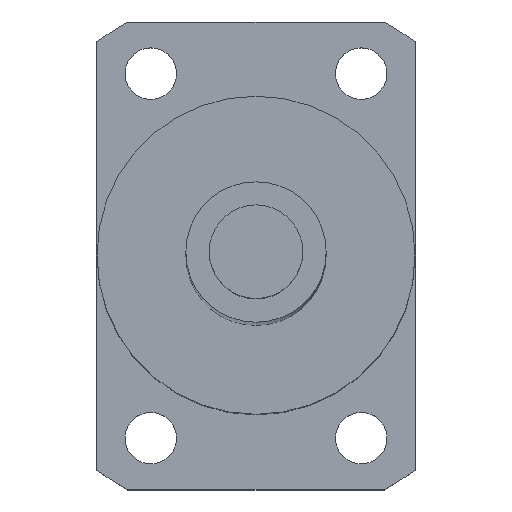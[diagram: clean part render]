
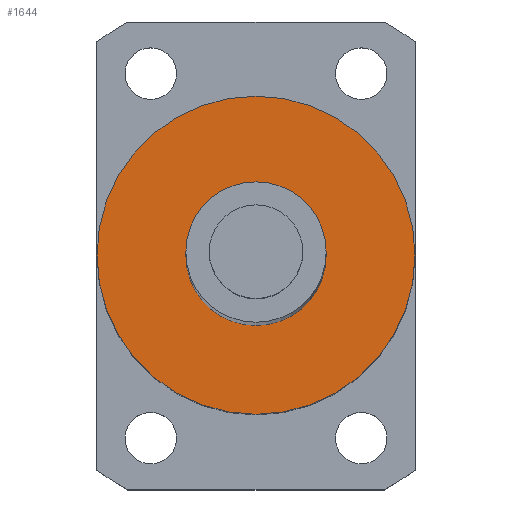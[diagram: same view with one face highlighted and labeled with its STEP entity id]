
A CAD part, top view. The second image highlights one B-rep face of the part: STEP entity #1644.
In plain terms, the highlighted planar face has unit normal (0, 0, 1).
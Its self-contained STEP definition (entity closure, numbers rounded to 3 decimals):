
#512=CARTESIAN_POINT('',(0.,0.,307.5));
#513=DIRECTION('',(0.,0.,1.));
#514=DIRECTION('',(1.,0.,0.));
#515=AXIS2_PLACEMENT_3D('',#512,#513,#514);
#517=CARTESIAN_POINT('',(0.,0.,307.5));
#518=DIRECTION('',(0.,0.,1.));
#519=DIRECTION('',(-1.,0.,0.));
#520=AXIS2_PLACEMENT_3D('',#517,#518,#519);
#522=CARTESIAN_POINT('',(0.,0.,307.5));
#523=DIRECTION('',(0.,0.,1.));
#524=DIRECTION('',(1.,0.,0.));
#525=AXIS2_PLACEMENT_3D('',#522,#523,#524);
#527=CARTESIAN_POINT('',(0.,0.,307.5));
#528=DIRECTION('',(0.,0.,1.));
#529=DIRECTION('',(-1.,0.,0.));
#530=AXIS2_PLACEMENT_3D('',#527,#528,#529);
#757=CARTESIAN_POINT('',(17.,0.,307.5));
#758=CARTESIAN_POINT('',(-17.,0.,307.5));
#759=VERTEX_POINT('',#757);
#760=VERTEX_POINT('',#758);
#769=CARTESIAN_POINT('',(7.5,0.,307.5));
#770=CARTESIAN_POINT('',(-7.5,0.,307.5));
#771=VERTEX_POINT('',#769);
#772=VERTEX_POINT('',#770);
#1629=CARTESIAN_POINT('',(0.,0.,307.5));
#1630=DIRECTION('',(0.,0.,1.));
#1631=DIRECTION('',(1.,0.,0.));
#1632=AXIS2_PLACEMENT_3D('',#1629,#1630,#1631);
#1633=PLANE('',#1632);
#1634=ORIENTED_EDGE('',*,*,#1609,.F.);
#1635=ORIENTED_EDGE('',*,*,#1623,.F.);
#1636=EDGE_LOOP('',(#1634,#1635));
#1637=FACE_OUTER_BOUND('',#1636,.F.);
#1639=ORIENTED_EDGE('',*,*,#1638,.T.);
#1641=ORIENTED_EDGE('',*,*,#1640,.T.);
#1642=EDGE_LOOP('',(#1639,#1641));
#1643=FACE_BOUND('',#1642,.F.);
#1644=ADVANCED_FACE('',(#1637,#1643),#1633,.T.);
#516=CIRCLE('',#515,17.);
#521=CIRCLE('',#520,17.);
#526=CIRCLE('',#525,7.5);
#531=CIRCLE('',#530,7.5);
#1609=EDGE_CURVE('',#759,#760,#516,.T.);
#1623=EDGE_CURVE('',#760,#759,#521,.T.);
#1638=EDGE_CURVE('',#771,#772,#526,.T.);
#1640=EDGE_CURVE('',#772,#771,#531,.T.);
